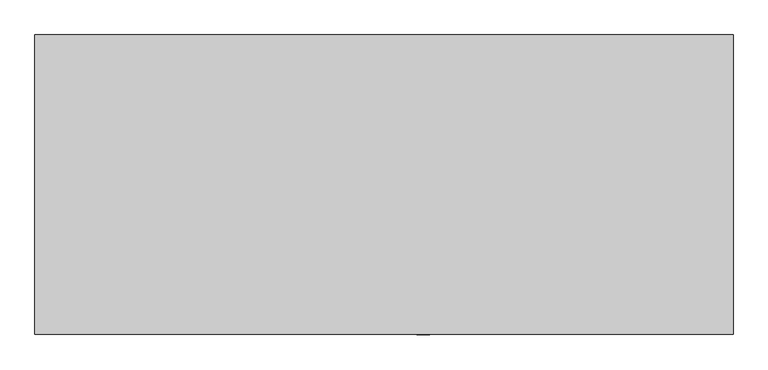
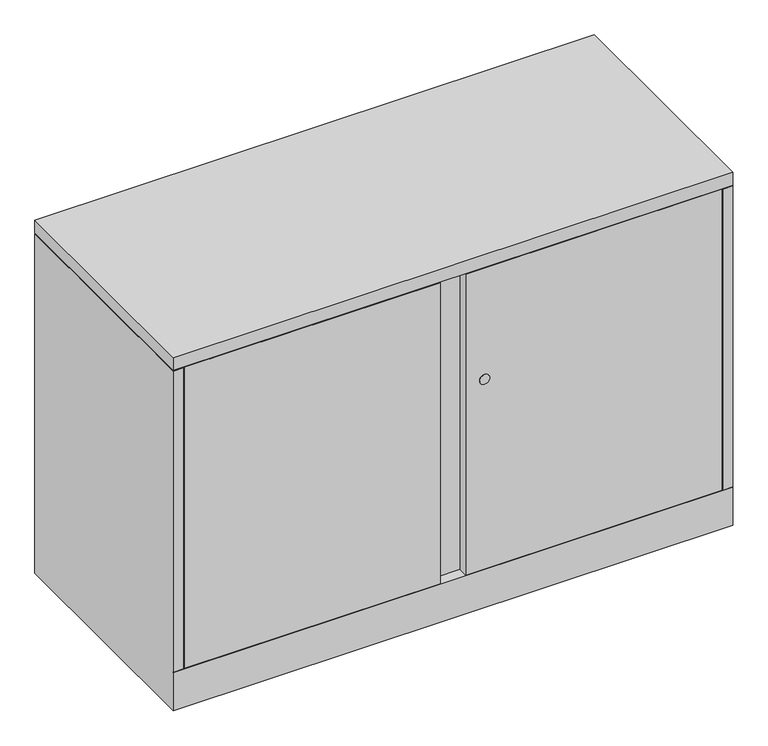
"""IFC4 building model written with IfcOpenShell, lengths in millimetres: furniture geometry, Steelcase - Universal Storage - Cabinet - Storage - 28H - Flush Steel : 18D x 42W."""

from ifc_helpers import new_model, si_unit, point, frame, frame_2d, origin, place, context, project, spatial, polyline, circle_curve, trimmed, segment, composite_curve, outline, extrude, faceted_brep, source, transform, mapped, element, save


def furniture_de8ff148(model_context):
    return source(origin(), model_context, "Body", "SolidModel", [
        extrude(outline(polyline([(1066.8, 0.0), (1066.8, -457.2), (0.0, -457.2), (0.0, 0.0), (1066.8, 0.0)])), frame((0.0, 0.0, 685.7999516), z_axis=(0.0, 0.0, 1.0), x_axis=(1.0, 0.0, 0.0)), (0.0, 0.0, 1.0), 25.4),
        extrude(outline(composite_curve([segment(trimmed(circle_curve(frame_2d((460.3889832, 593.2109835)), 9.7167829), [point((460.3889832, 602.9277664))], [point((460.3889832, 583.4942006))], False, "CARTESIAN"), True, "CONTINUOUS"), segment(trimmed(circle_curve(frame_2d((460.3889832, 593.2109835)), 9.7167829), [point((460.3889832, 583.4942006))], [point((460.3889832, 602.9277664))], False, "CARTESIAN"), True, "CONTINUOUS")], self_intersect=False)), frame((0.0, -457.8695275, 0.0), z_axis=(0.0, 1.0, 0.0), x_axis=(0.0, 0.0, 1.0)), (0.0, 0.0, 1.0), 0.6695275),
        extrude(outline(polyline([(20.8280006, -431.673866), (1045.972, -431.673866), (1045.972, -457.2), (557.53, -457.2), (557.53, -438.0238781), (509.27, -438.0238781), (509.27, -457.2), (20.8280006, -457.2), (20.8280006, -431.673866)])), frame((0.0, 0.0, 77.724), z_axis=(0.0, 0.0, 1.0), x_axis=(1.0, 0.0, 0.0)), (0.0, 0.0, 1.0), 606.552),
        faceted_brep([(1066.8, 0.0, 0.0), (1066.8, -457.2, 0.0), (0.0, -457.2, 0.0), (0.0, 0.0, 0.0), (0.0, 0.0, 684.276), (1066.8, 0.0, 684.276), (0.0, -457.2, 76.2), (0.0, -457.2, 77.724), (0.0, -457.2, 684.276), (1066.8, -457.2, 76.2), (1066.8, -457.2, 684.276), (1066.8, -457.2, 77.724), (1041.4000242, -25.4000008, 684.276), (1041.4000242, -430.1498674, 684.276), (1045.972, -430.1498674, 684.276), (1045.972, -431.6738781, 684.276), (1047.496, -431.6738781, 684.276), (1047.496, -457.2, 684.276), (19.304, -457.2, 684.276), (19.304, -431.673866, 684.276), (20.8280006, -431.673866, 684.276), (20.8280006, -430.1498674, 684.276), (25.4000008, -430.1498674, 684.276), (25.4000008, -25.4000008, 684.276), (19.304, -457.2, 77.724), (19.304, -437.896, 77.724), (1047.496, -457.2, 77.724), (1047.496, -437.7698418, 77.724), (1041.4000242, -25.4000008, 77.724), (1041.4000242, -430.1498674, 77.724), (1045.972, -430.1498674, 77.724), (1045.972, -431.6738781, 77.724), (1047.496, -431.6738781, 77.724), (19.304, -431.673866, 77.724), (20.8280006, -431.673866, 77.724), (20.8280006, -430.1498674, 77.724), (25.4000008, -430.1498674, 77.724), (25.4000008, -25.4000008, 77.724), (25.526134, -431.673866, 77.724), (1041.4000242, -431.673866, 77.724)], [[[0, 1, 2, 3]], [[0, 3, 4, 5]], [[4, 3, 2, 6, 7, 8]], [[2, 1, 9, 6]], [[1, 0, 5, 10, 11, 9]], [[12, 13, 14, 15, 16, 17, 10, 5, 4, 8, 18, 19, 20, 21, 22, 23]], [[24, 7, 25]], [[11, 26, 27]], [[13, 12, 28, 29]], [[14, 13, 29, 30]], [[15, 14, 30, 31]], [[16, 15, 31, 32]], [[17, 16, 32, 27, 26]], [[10, 17, 26, 11]], [[18, 8, 7, 24]], [[19, 18, 24, 25, 33]], [[20, 19, 33, 34]], [[21, 20, 34, 35]], [[22, 21, 35, 36]], [[23, 22, 36, 37]], [[12, 23, 37, 28]], [[38, 39, 27, 32, 31, 30, 29, 28, 37, 36, 35, 34, 33, 25]], [[7, 6, 38, 25]], [[39, 38, 6, 9]], [[39, 9, 11, 27]]]),
    ])


if __name__ == "__main__":
    model = new_model("IFC4")
    model_context = context("Model", 3, world=origin())
    ifc_project = project(units=[si_unit("LENGTHUNIT", "METRE", prefix="MILLI")], contexts=[model_context])
    site = spatial("IfcSite", under=ifc_project)
    building = spatial("IfcBuilding", under=site)
    placement = place(None, origin())
    furniture_shape = furniture_de8ff148(model_context)
    element("IfcFurniture", 1, ObjectType="Steelcase - Universal Storage - Cabinet - Storage - 28H - Flush Steel : 18D x 42W", at=placement, inside=building, context=model_context, shape_type="MappedRepresentation", body=[
        mapped(furniture_shape, transform((0.0, 0.0, 0.0), x_axis=(1.0, 0.0, 0.0), y_axis=(0.0, 1.0, 0.0), z_axis=(0.0, 0.0, 1.0))),
    ])
    save(model, "model.ifc")
